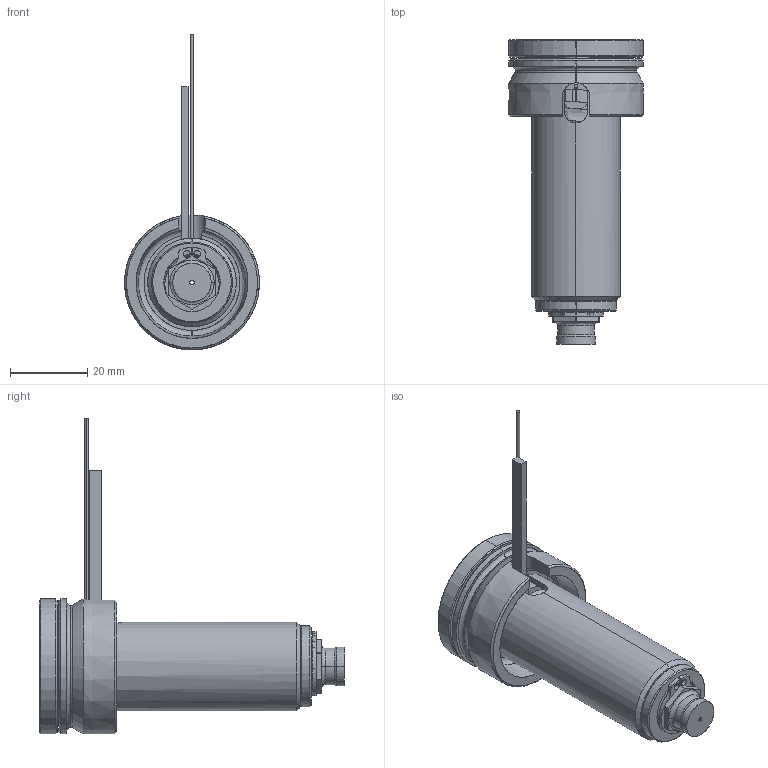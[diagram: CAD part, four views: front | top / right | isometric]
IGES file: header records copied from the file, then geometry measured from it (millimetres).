
Start section: SolidWorks IGES file using analytic representation for surfaces
Global section: file name: C:\Documents and Settings\ws-20\Desktop\TEM\UGEP3151-S-A-0 [Øf-0.30 P-0 ØC-7.0].IGS; native system: SolidWorks 2012; preprocessor: SolidWorks 2012; author: ws-20; date: 120404.081823; units: millimetre
Bounding box: 35 x 79 x 81.9 mm (x, y, z)
Surface area: 18139.2 mm2 (no closed solid volume)
Topology: 0 solids, 0 shells, 128 faces, 2008 edges, 2008 vertices
Faces by surface type: revolution 78, bspline 50
